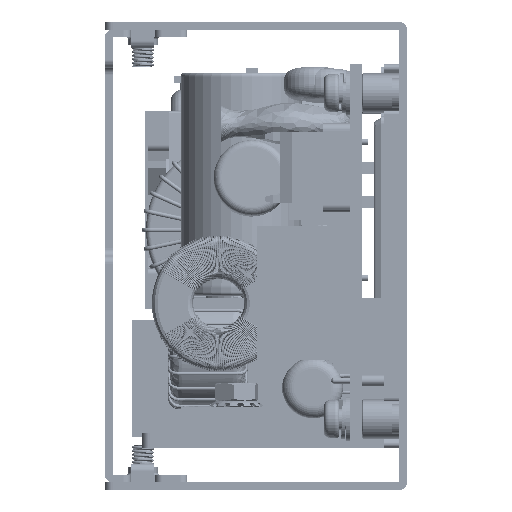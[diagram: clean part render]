
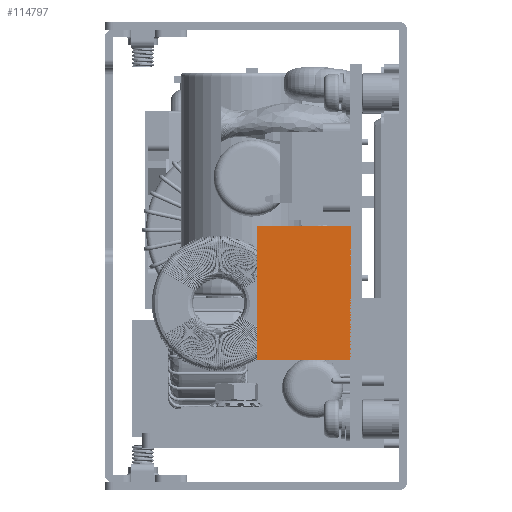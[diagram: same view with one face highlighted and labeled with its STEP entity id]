
A CAD part, left-side view. The second image highlights one B-rep face of the part: STEP entity #114797.
In plain terms, the highlighted planar face has unit normal (-1, 0, 0).
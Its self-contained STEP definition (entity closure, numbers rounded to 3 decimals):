
#114744 = VERTEX_POINT ( 'NONE', #211488 ) ;
#114745 = ORIENTED_EDGE ( 'NONE', *, *, #114746, .F. ) ;
#114746 = EDGE_CURVE ( 'NONE', #114748, #114744, #211480, .T. ) ;
#114748 = VERTEX_POINT ( 'NONE', #211473 ) ;
#114751 = ORIENTED_EDGE ( 'NONE', *, *, #114753, .F. ) ;
#114753 = EDGE_CURVE ( 'NONE', #114754, #114748, #211466, .T. ) ;
#114754 = VERTEX_POINT ( 'NONE', #211458 ) ;
#114755 = ORIENTED_EDGE ( 'NONE', *, *, #114757, .T. ) ;
#114757 = EDGE_CURVE ( 'NONE', #114754, #114808, #211456, .T. ) ;
#114797 = ADVANCED_FACE ( 'NONE', ( #211546 ), #211552, .F. ) ;
#114801 = EDGE_LOOP ( 'NONE', ( #114803, #114745, #114751, #114755 ) ) ;
#114803 = ORIENTED_EDGE ( 'NONE', *, *, #114805, .T. ) ;
#114805 = EDGE_CURVE ( 'NONE', #114808, #114744, #211543, .T. ) ;
#114808 = VERTEX_POINT ( 'NONE', #211527 ) ;
#211452 = DIRECTION ( 'NONE',  ( 0., 0., -1. ) ) ;
#211453 = VECTOR ( 'NONE', #211452, 1000. ) ;
#211455 = CARTESIAN_POINT ( 'NONE',  ( 59.267, 97.172, 12.5 ) ) ;
#211456 = LINE ( 'NONE', #211455, #211453 ) ;
#211458 = CARTESIAN_POINT ( 'NONE',  ( 59.267, 97.172, 12.5 ) ) ;
#211460 = DIRECTION ( 'NONE',  ( 0., -1., 0. ) ) ;
#211461 = VECTOR ( 'NONE', #211460, 1000. ) ;
#211463 = CARTESIAN_POINT ( 'NONE',  ( 59.267, 97.172, 12.5 ) ) ;
#211466 = LINE ( 'NONE', #211463, #211461 ) ;
#211473 = CARTESIAN_POINT ( 'NONE',  ( 59.267, 79.372, 12.5 ) ) ;
#211475 = DIRECTION ( 'NONE',  ( 0., 0., -1. ) ) ;
#211476 = VECTOR ( 'NONE', #211475, 1000. ) ;
#211478 = CARTESIAN_POINT ( 'NONE',  ( 59.267, 79.372, 12.5 ) ) ;
#211480 = LINE ( 'NONE', #211478, #211476 ) ;
#211488 = CARTESIAN_POINT ( 'NONE',  ( 59.267, 79.372, 0. ) ) ;
#211527 = CARTESIAN_POINT ( 'NONE',  ( 59.267, 97.172, 0. ) ) ;
#211531 = DIRECTION ( 'NONE',  ( 0., -1., 0. ) ) ;
#211533 = VECTOR ( 'NONE', #211531, 1000. ) ;
#211535 = CARTESIAN_POINT ( 'NONE',  ( 59.267, 97.172, 0. ) ) ;
#211538 = DIRECTION ( 'NONE',  ( 0., 0., -1. ) ) ;
#211540 = DIRECTION ( 'NONE',  ( 1., 0., 0. ) ) ;
#211541 = CARTESIAN_POINT ( 'NONE',  ( 59.267, 97.172, 12.5 ) ) ;
#211543 = LINE ( 'NONE', #211535, #211533 ) ;
#211545 = AXIS2_PLACEMENT_3D ( 'NONE', #211541, #211540, #211538 ) ;
#211546 = FACE_OUTER_BOUND ( 'NONE', #114801, .T. ) ;
#211552 = PLANE ( 'NONE',  #211545 ) ;
